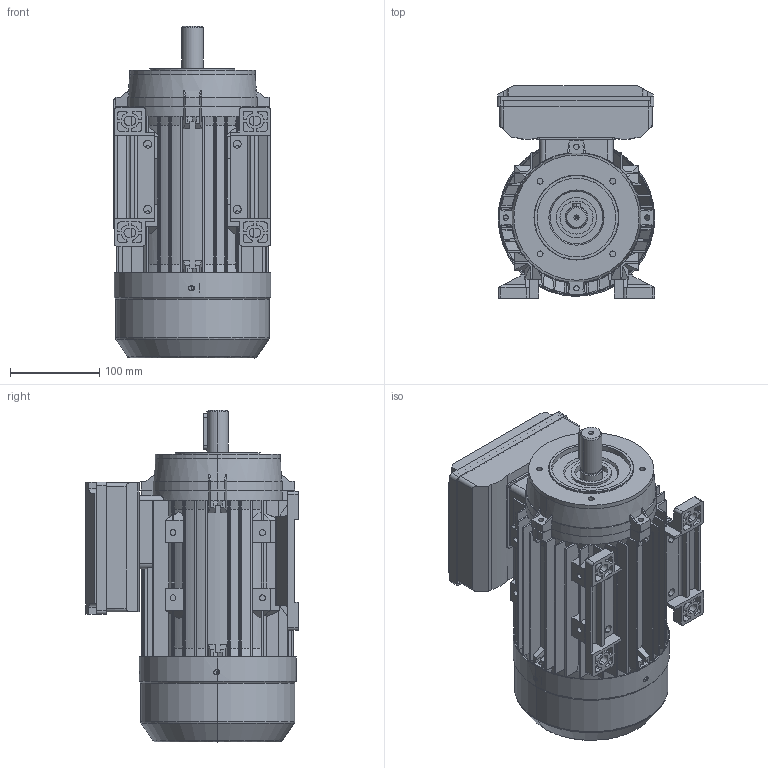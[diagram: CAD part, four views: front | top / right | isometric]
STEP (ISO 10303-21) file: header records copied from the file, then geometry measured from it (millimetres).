
FILE_DESCRIPTION (( 'STEP AP214' ), '1' );
FILE_NAME ('ML-90L_B34.STEP', '2013-11-21T08:59:17', ( 'Frank Wennekamp' ), ( '' ), 'SwSTEP 2.0', 'SolidWorks 2012', '' );
FILE_SCHEMA (( 'AUTOMOTIVE_DESIGN' ));
Length unit declared in the file: millimetre
Products named in the file (9): Klemmenkastendeckel_ML90; Klemmenkastenunterteil_ML90; Fuss_MS90L; Lüfterhaube_MS90; L黤terfl黦el_MS90; B-Lagerschild_MS90; B14-Flansch_MS90; Gehäuse_MS90L3; ML-90L_B34
Assembly tree (9 placements, depth 2):
  ML-90L_B34
    Gehäuse_MS90L3
    B14-Flansch_MS90
    B-Lagerschild_MS90
    L黤terfl黦el_MS90
    Lüfterhaube_MS90
    Fuss_MS90L  x2
    Klemmenkastenunterteil_ML90
    Klemmenkastendeckel_ML90
Bounding box: 176.01 x 237.5 x 371 mm (x, y, z)
Volume: 1495887.6 mm3; surface area: 920623.6 mm2
Topology: 9 solids, 9 shells, 1975 faces, 5368 edges, 3470 vertices
Faces by surface type: plane 1201, cylinder 547, bspline 124, cone 103
Entity records: 64150 total; most frequent: CARTESIAN_POINT 16721, ORIENTED_EDGE 10152, DIRECTION 9193, EDGE_CURVE 5076, LINE 3365, VECTOR 3365, VERTEX_POINT 3280, AXIS2_PLACEMENT_3D 2914
